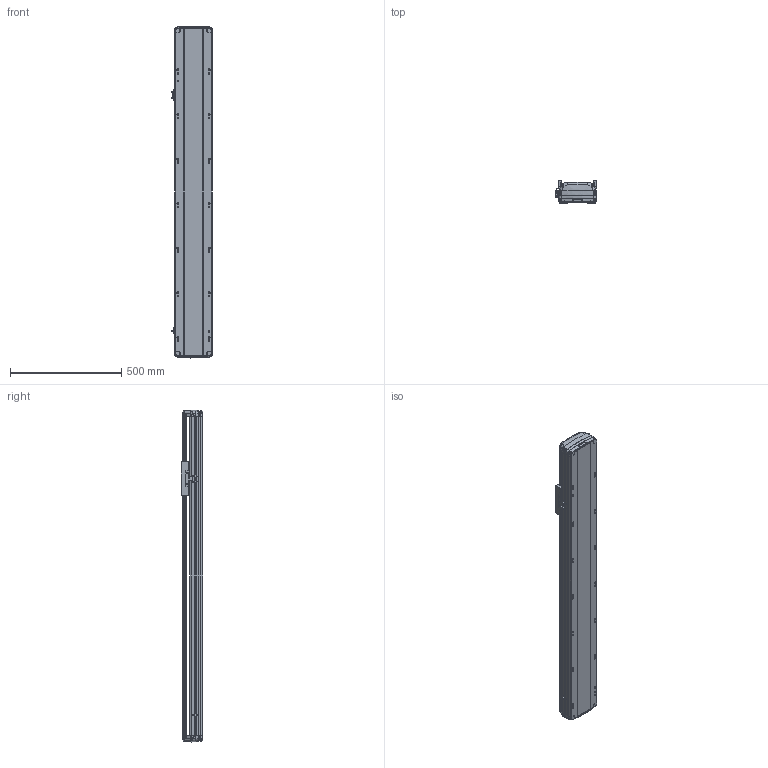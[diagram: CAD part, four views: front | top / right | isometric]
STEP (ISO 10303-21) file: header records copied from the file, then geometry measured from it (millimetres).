
FILE_DESCRIPTION (( 'STEP AP214' ), '1' );
FILE_NAME ('RTH17-XX-1050-B-M40B-C4.STEP', '2025-10-24T09:19:42', ( '' ), ( '' ), 'SwSTEP 2.0', 'SolidWorks 2018', '' );
FILE_SCHEMA (( 'AUTOMOTIVE_DESIGN' ));
Length unit declared in the file: millimetre
Products named in the file (7): N_RTH17-E-004丝杆螺母连接座^RTH17-XX-XX-B-M40B-C4（方程式）; N_RTH-L-012 感应片(外置)^RTH17-XX-XX-B-M40B-C4（方程式）; N_OMRON EE-SX672 換覜ん^RTH17-XX-XX-B-M40B-C4ㄗ源最宒ㄘ; N_RTH17-M-007B上盖^RTH17-XX-XX-B-M40B-C4（方程式）; N_RTH17-GY-001P^RTH17-XX-XX-B-M40B-C4（方程式）; N_RTH17-M-011B底座^RTH17-XX-XX-B-M40B-C4（方程式）; RTH17-XX-1050-B-M40B-C4
Assembly tree (9 placements, depth 2):
  RTH17-XX-1050-B-M40B-C4
    N_RTH17-M-011B底座^RTH17-XX-XX-B-M40B-C4（方程式）
    N_RTH17-M-007B上盖^RTH17-XX-XX-B-M40B-C4（方程式）
    N_OMRON EE-SX672 換覜ん^RTH17-XX-XX-B-M40B-C4ㄗ源最宒ㄘ  x3
    N_RTH-L-012 感应片(外置)^RTH17-XX-XX-B-M40B-C4（方程式）
    N_RTH17-E-004丝杆螺母连接座^RTH17-XX-XX-B-M40B-C4（方程式）
    N_RTH17-GY-001P^RTH17-XX-XX-B-M40B-C4（方程式）  x2
Bounding box: 183.5 x 97 x 1489.88 mm (x, y, z)
Volume: 10820195.6 mm3; surface area: 1470480 mm2
Topology: 7 solids, 11 shells, 1752 faces, 4934 edges, 3206 vertices
Faces by surface type: plane 813, cylinder 473, bspline 420, cone 28, torus 18
Entity records: 41814 total; most frequent: CARTESIAN_POINT 17297, ORIENTED_EDGE 5372, DIRECTION 4246, EDGE_CURVE 2690, VERTEX_POINT 1760, VECTOR 1454, LINE 1454, AXIS2_PLACEMENT_3D 1396
